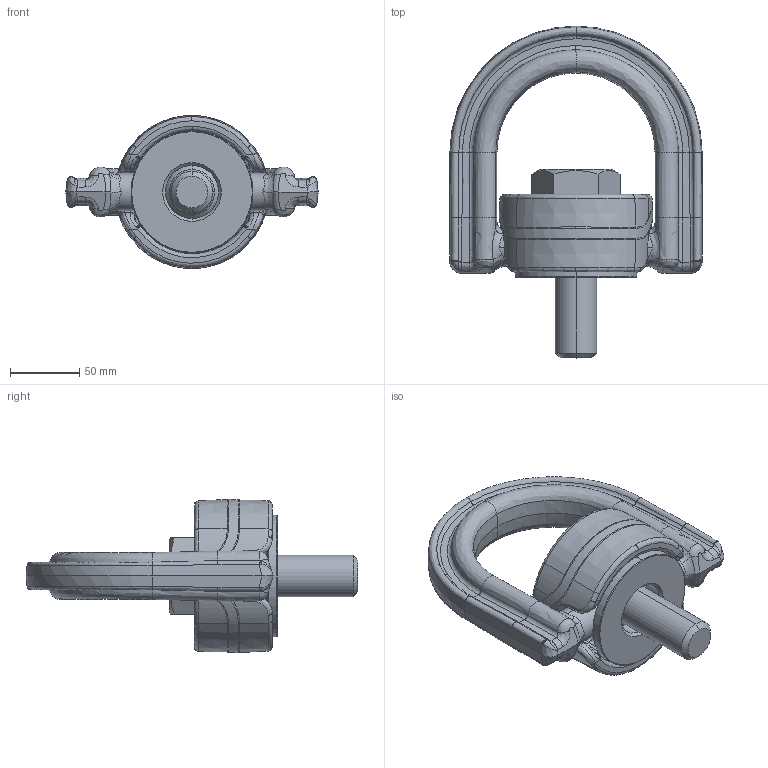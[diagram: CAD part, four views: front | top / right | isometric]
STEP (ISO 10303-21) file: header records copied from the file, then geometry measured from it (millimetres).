
FILE_DESCRIPTION (( 'STEP AP203' ), '1' );
FILE_NAME ('Z101730.step', '2016-04-04T11:14:12', ( '' ), ( '' ), 'SwSTEP 2.0', 'SolidWorks 2008', '' );
FILE_SCHEMA (( 'CONFIG_CONTROL_DESIGN' ));
Length unit declared in the file: millimetre
Products named in the file (6): Z101730; Z7760451; Z768074; Z768025_SMITT; Z768660; Z7681230
Assembly tree (5 placements, depth 2):
  Z101730
    Z768660
    Z768025_SMITT
    Z7760451
    Z7681230
    Z768074
Bounding box: 182 x 239.5 x 110.5 mm (x, y, z)
Volume: 897155.6 mm3; surface area: 150033.9 mm2
Topology: 5 solids, 5 shells, 476 faces, 1102 edges, 636 vertices
Faces by surface type: bspline 321, plane 63, cylinder 62, cone 26, torus 4
Entity records: 45077 total; most frequent: CARTESIAN_POINT 36462, ORIENTED_EDGE 2190, EDGE_CURVE 1095, DIRECTION 870, B_SPLINE_CURVE_WITH_KNOTS 640, VERTEX_POINT 636, EDGE_LOOP 487, ADVANCED_FACE 476
